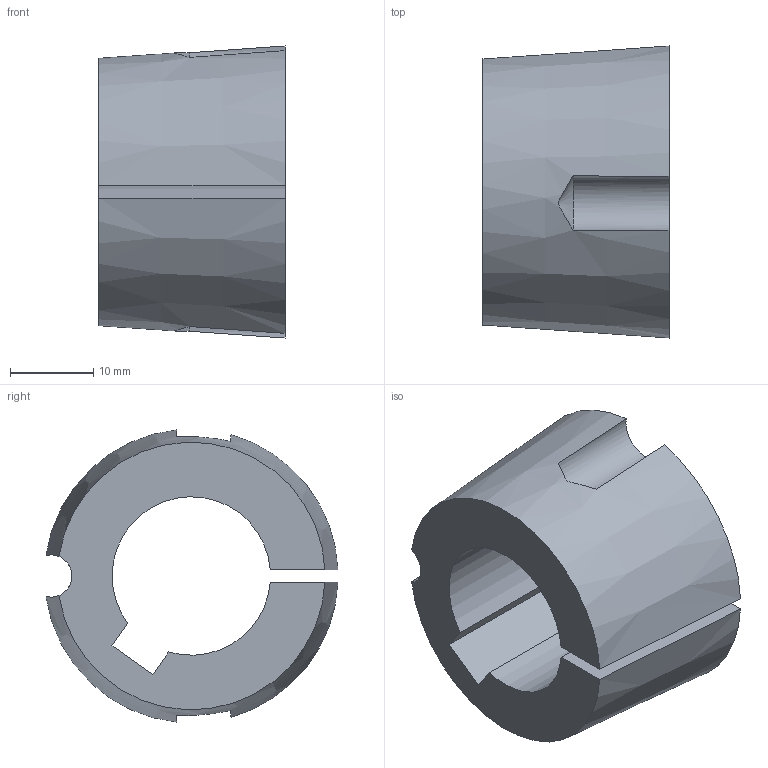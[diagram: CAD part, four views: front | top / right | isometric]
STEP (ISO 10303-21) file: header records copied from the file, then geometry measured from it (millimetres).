
FILE_DESCRIPTION( ( 'STEP AP203' ), '1' );
FILE_NAME( 'D:/export/antriebselemente/spannbuchsen_und_spannsaetze/taper-spannbuchsen_1008_bis_5050/taper-spannbuchsen_62250119Isometric_10.stp', '2018-12-11T11:10:56', ( '' ), ( '' ), ' ', 'PARTsolutions', ' ' );
FILE_SCHEMA( ( 'CONFIG_CONTROL_DESIGN' ) );
Length unit declared in the file: millimetre
Products named in the file (1): _taper-spannbuchsen_62250119
Bounding box: 22.3 x 35.01 x 35.02 mm (x, y, z)
Volume: 12218.4 mm3; surface area: 5355.7 mm2
Topology: 1 solids, 1 shells, 16 faces, 42 edges, 28 vertices
Faces by surface type: plane 7, cylinder 5, cone 4
Entity records: 602 total; most frequent: CARTESIAN_POINT 163, ORIENTED_EDGE 84, DIRECTION 82, EDGE_CURVE 42, AXIS2_PLACEMENT_3D 33, VERTEX_POINT 28, ADVANCED_FACE 16, FACE_OUTER_BOUND 16
